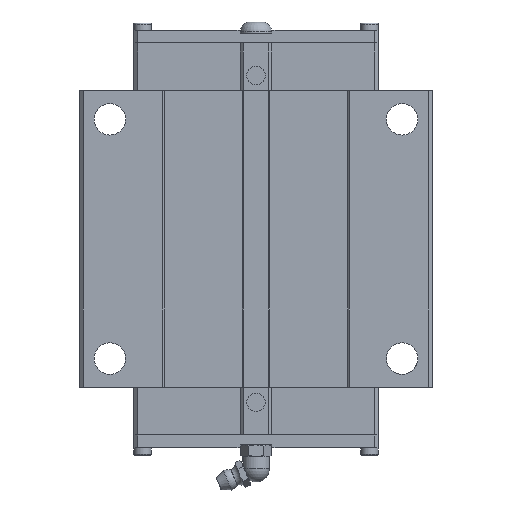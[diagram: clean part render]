
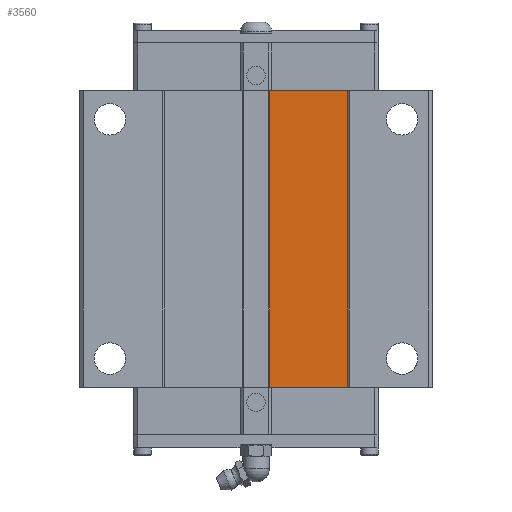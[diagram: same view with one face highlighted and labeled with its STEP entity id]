
A CAD part, top view. The second image highlights one B-rep face of the part: STEP entity #3560.
In plain terms, the highlighted planar face has unit normal (0, 0, 1).
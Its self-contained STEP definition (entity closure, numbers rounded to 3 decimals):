
#1708=EDGE_CURVE('',#4264,#3324,#5072,.T.);
#2050=VERTEX_POINT('',#5452);
#2708=EDGE_CURVE('',#4052,#2050,#6181,.T.);
#3324=VERTEX_POINT('',#6851);
#3560=ADVANCED_FACE('',(#7110),#7111,.F.);
#4052=VERTEX_POINT('',#7650);
#4264=VERTEX_POINT('',#7883);
#4306=EDGE_CURVE('',#2050,#4264,#7927,.T.);
#4340=EDGE_CURVE('',#4052,#3324,#7964,.T.);
#5072=LINE('',#8773,#8774);
#5452=CARTESIAN_POINT('',(36.5,141.75,69.5));
#6181=LINE('',#10422,#10423);
#6851=CARTESIAN_POINT('',(5.5,24.05,69.5));
#7110=FACE_OUTER_BOUND('',#11807,.T.);
#7111=PLANE('',#11808);
#7650=CARTESIAN_POINT('',(5.5,141.75,69.5));
#7883=CARTESIAN_POINT('',(36.5,24.05,69.5));
#7927=LINE('',#13044,#13045);
#7964=LINE('',#13095,#13096);
#8773=CARTESIAN_POINT('',(18.25,24.05,69.5));
#8774=VECTOR('',#14303,1.0);
#10422=CARTESIAN_POINT('',(18.25,141.75,69.5));
#10423=VECTOR('',#15603,1.0);
#11807=EDGE_LOOP('',(#16565,#16566,#16567,#16568));
#11808=AXIS2_PLACEMENT_3D('',#16569,#16570,#16571);
#13044=CARTESIAN_POINT('',(36.5,200.6,69.5));
#13045=VECTOR('',#17459,1.0);
#13095=CARTESIAN_POINT('',(5.5,171.175,69.5));
#13096=VECTOR('',#17495,1.0);
#14303=DIRECTION('',(-1.0,-0.0,-0.0));
#15603=DIRECTION('',(1.0,0.0,0.0));
#16565=ORIENTED_EDGE('',*,*,#4340,.T.);
#16566=ORIENTED_EDGE('',*,*,#1708,.F.);
#16567=ORIENTED_EDGE('',*,*,#4306,.F.);
#16568=ORIENTED_EDGE('',*,*,#2708,.F.);
#16569=CARTESIAN_POINT('',(36.5,200.6,69.5));
#16570=DIRECTION('',(0.0,0.0,-1.0));
#16571=DIRECTION('',(1.0,0.0,0.0));
#17459=DIRECTION('',(0.0,-1.0,0.0));
#17495=DIRECTION('',(0.0,-1.0,0.0));
